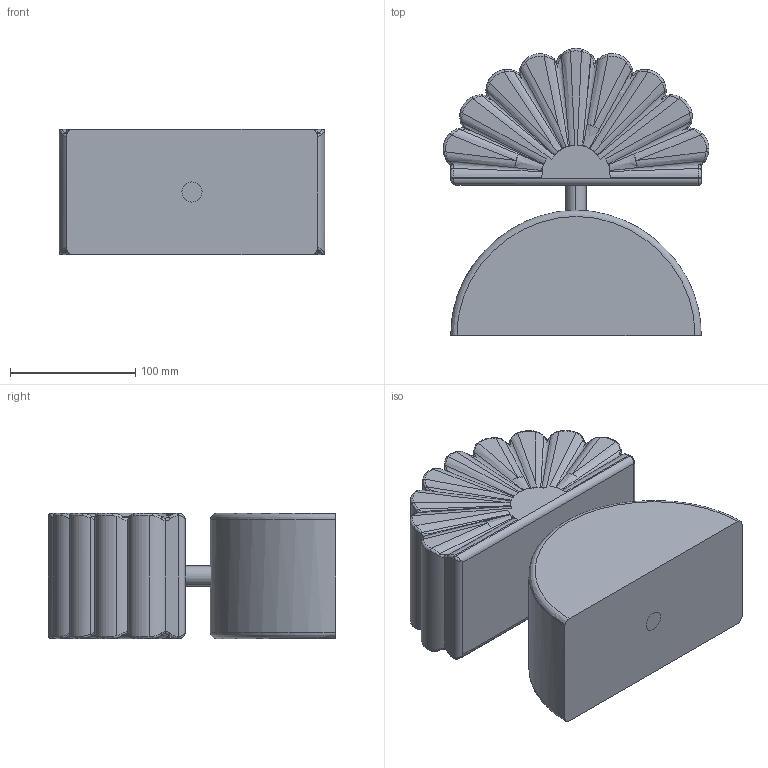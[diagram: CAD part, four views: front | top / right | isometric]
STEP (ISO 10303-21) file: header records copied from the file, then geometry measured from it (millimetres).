
FILE_DESCRIPTION (( 'STEP AP214' ), '1' );
FILE_NAME ('GINA_S1334.STEP', '2024-09-18T07:41:11', ( '' ), ( '' ), 'SwSTEP 2.0', 'SolidWorks 2018', '' );
FILE_SCHEMA (( 'AUTOMOTIVE_DESIGN' ));
Length unit declared in the file: millimetre
Products named in the file (1): GINA_S1334
Bounding box: 212.24 x 229.17 x 100 mm (x, y, z)
Volume: 3342805.2 mm3; surface area: 182534.3 mm2
Topology: 3 solids, 3 shells, 259 faces, 647 edges, 393 vertices
Faces by surface type: bspline 135, plane 43, cone 28, cylinder 24, torus 22, sphere 7
Entity records: 16835 total; most frequent: CARTESIAN_POINT 9046, ORIENTED_EDGE 1290, DIRECTION 653, EDGE_CURVE 645, B_SPLINE_CURVE_WITH_KNOTS 394, VERTEX_POINT 393, AXIS2_PLACEMENT_3D 292, UNCERTAINTY_MEASURE_WITH_UNIT 264
